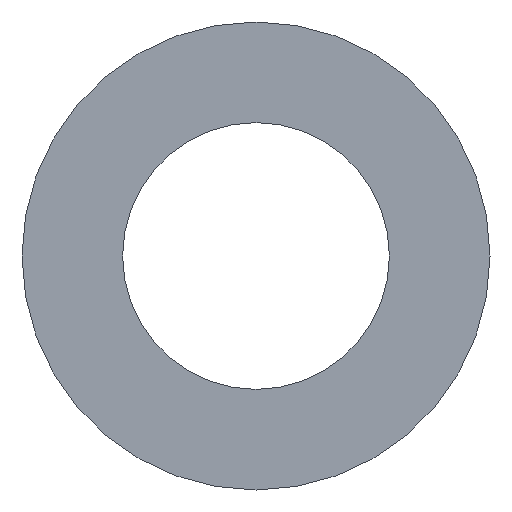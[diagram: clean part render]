
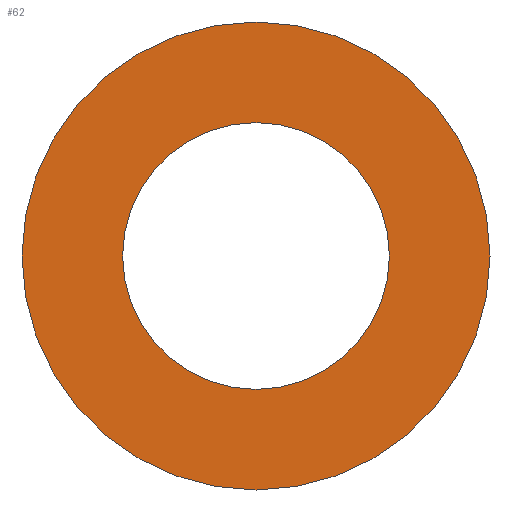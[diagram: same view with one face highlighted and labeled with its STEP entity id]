
A CAD part, front view. The second image highlights one B-rep face of the part: STEP entity #62.
In plain terms, the highlighted planar face has unit normal (0, -1, 0).
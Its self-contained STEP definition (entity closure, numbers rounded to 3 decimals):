
#20=PLANE('',#83);
#26=ORIENTED_EDGE('',*,*,#30,.T.);
#27=ORIENTED_EDGE('',*,*,#32,.F.);
#30=EDGE_CURVE('',#34,#34,#38,.T.);
#32=EDGE_CURVE('',#36,#36,#40,.T.);
#34=VERTEX_POINT('',#106);
#36=VERTEX_POINT('',#111);
#38=CIRCLE('',#78,146.5);
#40=CIRCLE('',#81,257.);
#46=EDGE_LOOP('',(#26));
#47=EDGE_LOOP('',(#27));
#54=FACE_BOUND('',#46,.T.);
#55=FACE_BOUND('',#47,.T.);
#62=ADVANCED_FACE('',(#54,#55),#20,.F.);
#78=AXIS2_PLACEMENT_3D('',#105,#89,#90);
#81=AXIS2_PLACEMENT_3D('',#110,#95,#96);
#83=AXIS2_PLACEMENT_3D('',#114,#99,#100);
#89=DIRECTION('',(0.,1.,0.));
#90=DIRECTION('',(1.,0.,0.));
#95=DIRECTION('',(0.,1.,0.));
#96=DIRECTION('',(1.,0.,0.));
#99=DIRECTION('',(0.,1.,0.));
#100=DIRECTION('',(0.,0.,1.));
#105=CARTESIAN_POINT('',(0.,-1.5,0.));
#106=CARTESIAN_POINT('',(146.5,-1.5,0.));
#110=CARTESIAN_POINT('',(0.,-1.5,0.));
#111=CARTESIAN_POINT('',(257.,-1.5,0.));
#114=CARTESIAN_POINT('',(0.,-1.5,0.));
